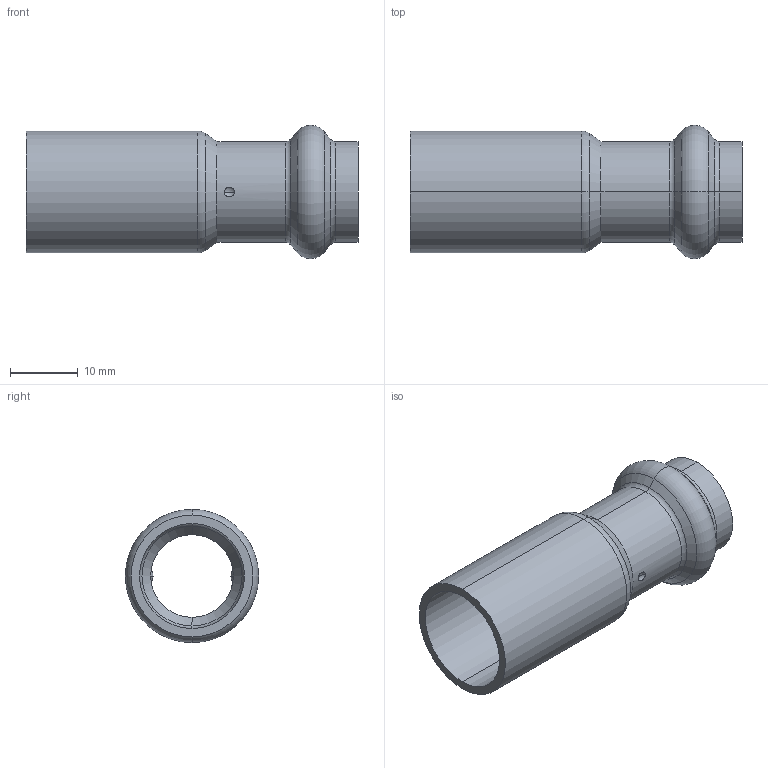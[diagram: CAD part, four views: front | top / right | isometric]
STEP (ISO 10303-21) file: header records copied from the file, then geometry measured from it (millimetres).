
FILE_DESCRIPTION (( 'STEP AP203' ), '1' );
FILE_NAME ('SP5243 18-12.STEP', '2017-04-24T09:02:33', ( '' ), ( '' ), 'SwSTEP 2.0', 'SolidWorks 2016', '' );
FILE_SCHEMA (( 'CONFIG_CONTROL_DESIGN' ));
Length unit declared in the file: millimetre
Products named in the file (1): SP5243 18-12
Bounding box: 49.05 x 19.7 x 19.7 mm (x, y, z)
Volume: 3296.4 mm3; surface area: 5182.6 mm2
Topology: 1 solids, 1 shells, 50 faces, 100 edges, 56 vertices
Faces by surface type: torus 16, cylinder 12, cone 12, sphere 8, plane 2
Entity records: 1477 total; most frequent: CARTESIAN_POINT 323, DIRECTION 262, ORIENTED_EDGE 200, AXIS2_PLACEMENT_3D 119, EDGE_CURVE 100, CIRCLE 68, VERTEX_POINT 56, EDGE_LOOP 56
